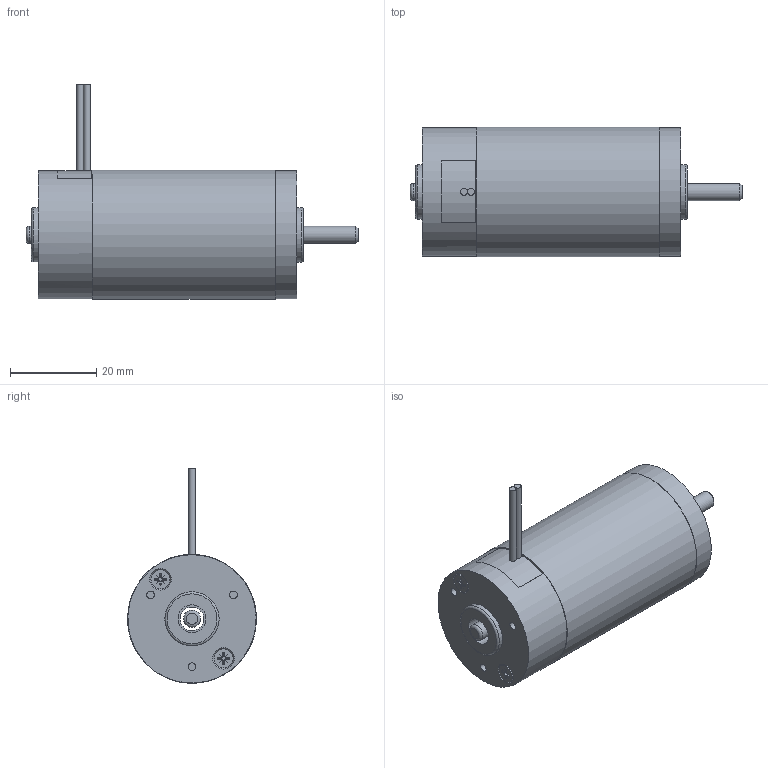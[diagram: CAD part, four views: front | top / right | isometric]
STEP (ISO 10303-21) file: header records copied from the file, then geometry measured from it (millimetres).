
FILE_DESCRIPTION((''),'2;1');
FILE_NAME('D:\연구개발부2팀 1파트\10_진행업무\3D\RM3_SERIES\RM34ㅁBL.stp','2014-06-23T09:58:54',('song'),(''),'Autodesk Inventor 2011','Autodesk Inventor 2011','');
FILE_SCHEMA(('AUTOMOTIVE_DESIGN { 1 0 10303 214 1 1 1 1 }'));
Length unit declared in the file: millimetre
Products named in the file (7): RM34ㅁBL; AS 1427 Z - 미터 M2.5 x 8; RM3_PIPE_HOUSING_30X42.5; RM34_SHAFT; RM3_BRUSH_LEAD_WIRE_TYPE; RM3_REAR_HOUSING; RM3_front
Assembly tree (7 placements, depth 2):
  RM34ㅁBL
    AS 1427 Z - 미터 M2.5 x 8  x2
    RM3_PIPE_HOUSING_30X42.5
    RM34_SHAFT
    RM3_BRUSH_LEAD_WIRE_TYPE
    RM3_REAR_HOUSING
    RM3_front
Bounding box: 77.11 x 30 x 49.9 mm (x, y, z)
Volume: 28589.4 mm3; surface area: 14588.4 mm2
Topology: 7 solids, 8 shells, 137 faces, 324 edges, 207 vertices
Faces by surface type: plane 62, cone 35, cylinder 29, torus 11
Full cylindrical faces by diameter (mm): 1.6 x2, 1.8 x3, 2 x3, 2.224 x2, 2.5 x2, 2.6 x2, 3.969 x1, 4 x1, 4.4 x2, 5.5 x1, 6.5 x1, 12.6 x1, 12.7 x1, 17.855 x1, 27.2 x1, 29.8 x2, 30 x1
Entity records: 2916 total; most frequent: CARTESIAN_POINT 658, DIRECTION 452, ORIENTED_EDGE 356, AXIS2_PLACEMENT_3D 200, EDGE_CURVE 178, EDGE_LOOP 155, VERTEX_POINT 130, FACE_OUTER_BOUND 96
